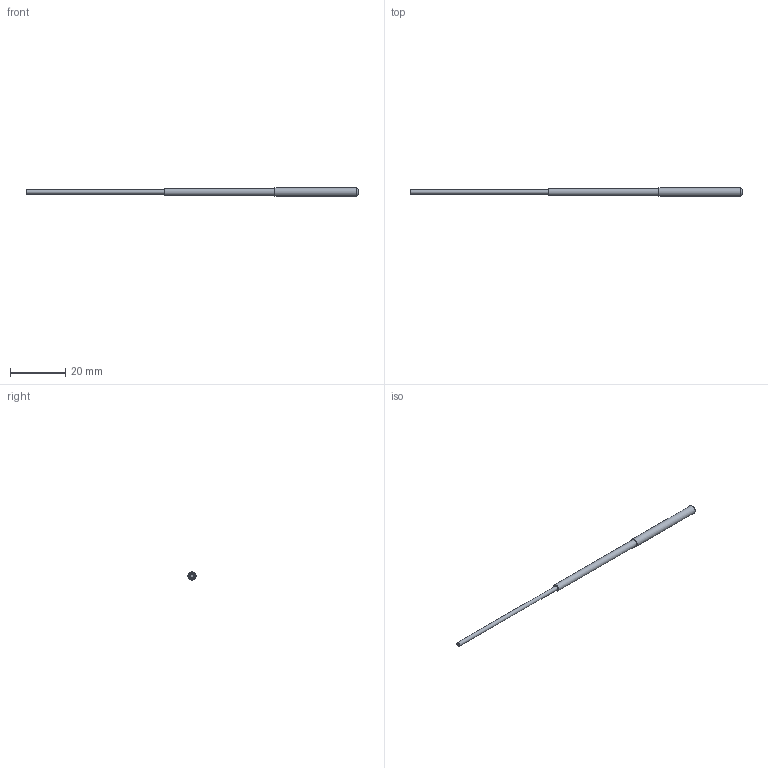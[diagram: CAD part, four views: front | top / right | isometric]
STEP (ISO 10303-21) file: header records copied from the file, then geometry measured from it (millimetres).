
FILE_DESCRIPTION(/* description */ (''),/* implementation_level */ '2;1');
FILE_NAME(/* name */ 'C:\Evgeny\Noga Works\_Noga MT Brush\solidcam\CROSS-HOLES D1.5 UF2115.stp',/* time_stamp */ '2025-03-23T08:37:21+02:00',/* author */ ('evgeny'),/* organization */ (''),/* preprocessor_version */ 'ST-DEVELOPER v20',/* originating_system */ 'Autodesk Inventor 2022',/* authorisation */ '');
FILE_SCHEMA (('AUTOMOTIVE_DESIGN { 1 0 10303 214 3 1 1 }'));
Length unit declared in the file: millimetre
Products named in the file (1): CROSS-HOLES D1.5 UF2115
Bounding box: 120 x 3 x 3 mm (x, y, z)
Volume: 495.7 mm3; surface area: 847.1 mm2
Topology: 2 solids, 2 shells, 9 faces, 12 edges, 8 vertices
Faces by surface type: plane 5, cylinder 3, cone 1
Full cylindrical faces by diameter (mm): 1.5 x1, 2.5 x1, 3 x1
Entity records: 243 total; most frequent: DIRECTION 40, CARTESIAN_POINT 30, ORIENTED_EDGE 24, AXIS2_PLACEMENT_3D 18, EDGE_CURVE 12, EDGE_LOOP 10, FACE_OUTER_BOUND 9, ADVANCED_FACE 9
